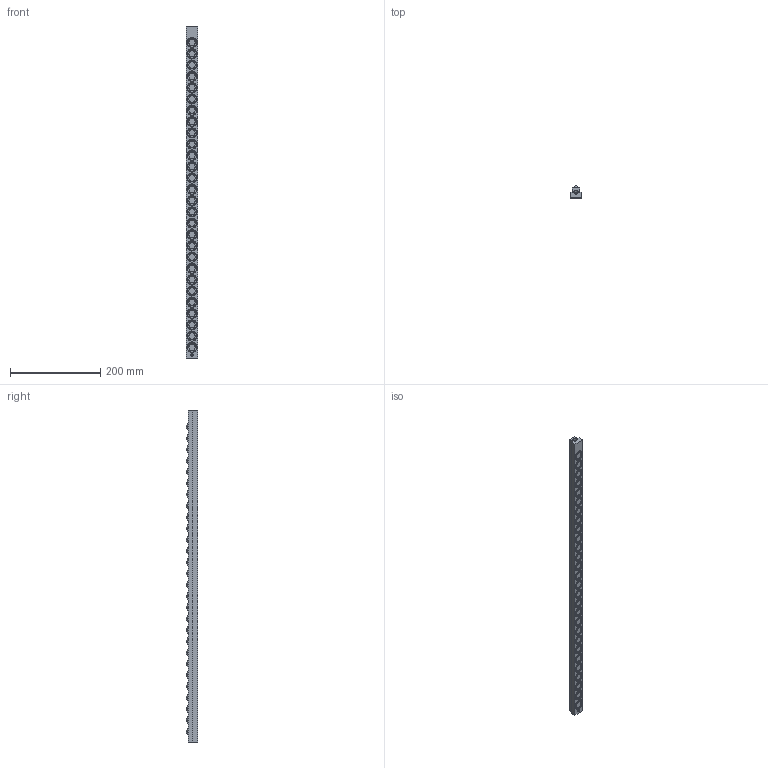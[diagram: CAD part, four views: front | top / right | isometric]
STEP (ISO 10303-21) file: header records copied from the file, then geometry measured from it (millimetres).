
FILE_DESCRIPTION (( 'STEP AP203' ), '1' );
FILE_NAME ('PVL13T-28.STEP', '2016-02-18T04:14:17', ( '' ), ( '' ), 'SwSTEP 2.0', 'SolidWorks 2013', '' );
FILE_SCHEMA (( 'CONFIG_CONTROL_DESIGN' ));
Length unit declared in the file: millimetre
Products named in the file (1): PVL13T-28
Bounding box: 25 x 26.26 x 735 mm (x, y, z)
Volume: 336538.6 mm3; surface area: 78146.1 mm2
Topology: 2 solids, 2 shells, 824 faces, 1968 edges, 1318 vertices
Faces by surface type: cylinder 458, plane 246, torus 56, sphere 56, cone 8
Entity records: 24675 total; most frequent: DIRECTION 4874, CARTESIAN_POINT 4107, ORIENTED_EDGE 3928, AXIS2_PLACEMENT_3D 2085, EDGE_CURVE 1964, VERTEX_POINT 1318, CIRCLE 1260, EDGE_LOOP 1000
